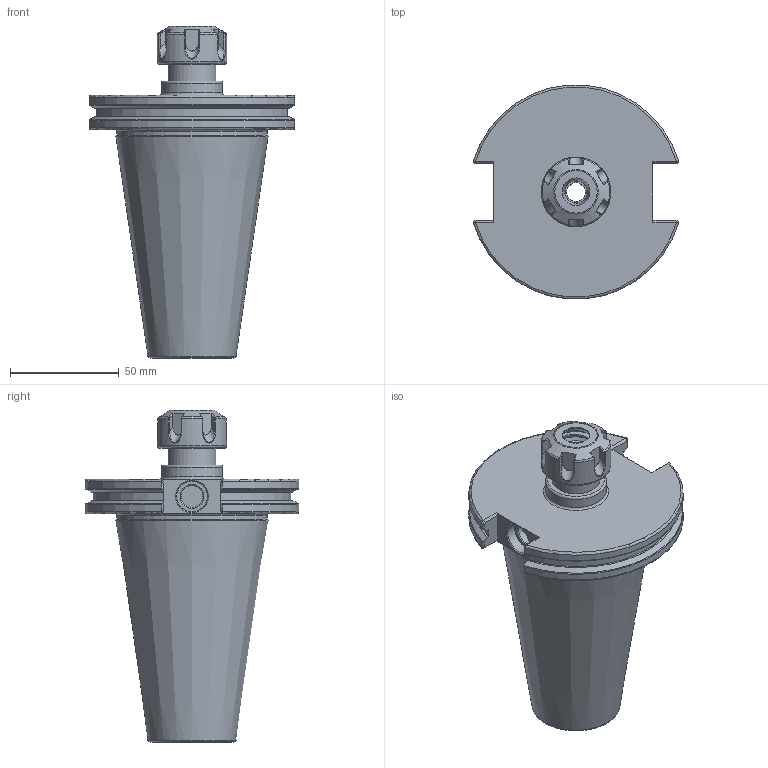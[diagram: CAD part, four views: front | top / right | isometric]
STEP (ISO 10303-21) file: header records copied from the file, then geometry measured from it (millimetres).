
FILE_DESCRIPTION(/* description */ (''),/* implementation_level */ '2;1');
FILE_NAME(/* name */ 'CAT50-ER16-2''''_asm1.stp',/* time_stamp */ '2020-04-11T17:27:54+08:00',/* author */ (''),/* organization */ (''),/* preprocessor_version */ 'ST-DEVELOPER v16',/* originating_system */ 'SIEMENS PLM Software NX 10.0',/* authorisation */ '');
FILE_SCHEMA (('CONFIG_CONTROL_DESIGN'));
Length unit declared in the file: millimetre
Products named in the file (3): ER16UM压帽; CAT50-ER16-2''; CAT50-ER16-2''_asm1
Assembly tree (2 placements, depth 2):
  CAT50-ER16-2''_asm1
    CAT50-ER16-2''
    ER16UM压帽
Bounding box: 94.4 x 98.07 x 152.4 mm (x, y, z)
Volume: 342761.5 mm3; surface area: 49415.8 mm2
Topology: 2 solids, 2 shells, 183 faces, 455 edges, 287 vertices
Faces by surface type: plane 82, bspline 30, cylinder 29, torus 23, cone 19
Full cylindrical faces by diameter (mm): 8.5 x1, 10 x2, 10.5 x1, 12.8 x1, 14 x1, 16.7 x1, 19.5 x1, 20.45 x1, 22 x1, 22.225 x1, 22.3 x1, 26.19 x1, 28 x1, 32 x1, 69 x1
Entity records: 6471 total; most frequent: CARTESIAN_POINT 2413, ORIENTED_EDGE 800, DIRECTION 646, EDGE_CURVE 400, VERTEX_POINT 272, AXIS2_PLACEMENT_3D 254, EDGE_LOOP 238, ADVANCED_FACE 183
